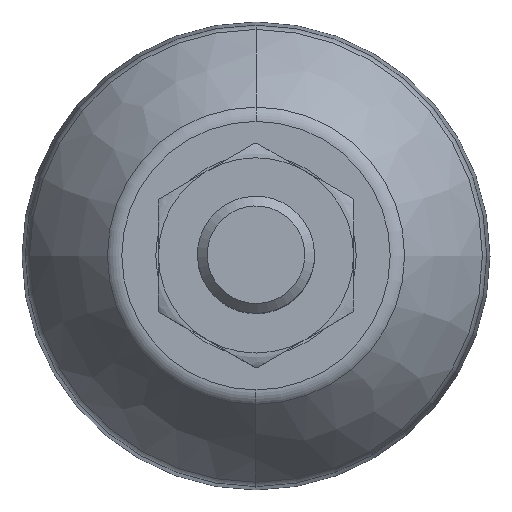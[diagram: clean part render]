
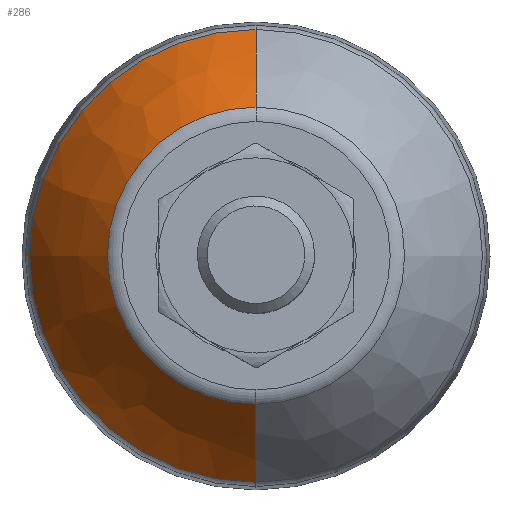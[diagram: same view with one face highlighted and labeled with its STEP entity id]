
A CAD part, top view. The second image highlights one B-rep face of the part: STEP entity #286.
In plain terms, the highlighted free-form (B-spline) face has degree [3, 3] with [4, 4] control points.
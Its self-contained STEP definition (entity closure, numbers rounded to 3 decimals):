
#286=ADVANCED_FACE('',(#492),#493,.T.);
#492=FACE_OUTER_BOUND('',#883,.T.);
#493=(B_SPLINE_SURFACE(3,3,((#885,#886,#887,#888),(#889,#890,#891,#892),(#893,#894,#895,#896),(#897,#898,#899,#900)),.UNSPECIFIED.,.F.,.F.,.F.)B_SPLINE_SURFACE_WITH_KNOTS((4,4),(4,4),(3.142,6.283),(-0.747,-0.474),.UNSPECIFIED.)RATIONAL_B_SPLINE_SURFACE(((1.0,0.333,0.333,1.0),(0.994,0.331,0.331,0.994),(0.994,0.331,0.331,0.994),(1.0,0.333,0.333,1.0)))BOUNDED_SURFACE()REPRESENTATION_ITEM('')GEOMETRIC_REPRESENTATION_ITEM()SURFACE());
#883=EDGE_LOOP('',(#1307,#1308,#1309,#1310));
#885=CARTESIAN_POINT('',(0.,4.385,-11.595));
#886=CARTESIAN_POINT('',(23.189,4.385,-11.595));
#887=CARTESIAN_POINT('',(23.189,4.385,11.595));
#888=CARTESIAN_POINT('',(0.,4.385,11.595));
#889=CARTESIAN_POINT('',(0.,6.459,-10.53));
#890=CARTESIAN_POINT('',(21.06,6.459,-10.53));
#891=CARTESIAN_POINT('',(21.06,6.459,10.53));
#892=CARTESIAN_POINT('',(0.,6.459,10.53));
#893=CARTESIAN_POINT('',(0.,8.369,-9.193));
#894=CARTESIAN_POINT('',(18.386,8.369,-9.193));
#895=CARTESIAN_POINT('',(18.386,8.369,9.193));
#896=CARTESIAN_POINT('',(0.,8.369,9.193));
#897=CARTESIAN_POINT('',(0.,10.08,-7.609));
#898=CARTESIAN_POINT('',(15.217,10.08,-7.609));
#899=CARTESIAN_POINT('',(15.217,10.08,7.609));
#900=CARTESIAN_POINT('',(0.,10.08,7.609));
#1307=ORIENTED_EDGE('',*,*,#1515,.T.);
#1308=ORIENTED_EDGE('',*,*,#1516,.T.);
#1309=ORIENTED_EDGE('',*,*,#1506,.T.);
#1310=ORIENTED_EDGE('',*,*,#1517,.F.);
#1506=EDGE_CURVE('',#1716,#1712,#1735,.T.);
#1515=EDGE_CURVE('',#1698,#1696,#1745,.T.);
#1516=EDGE_CURVE('',#1696,#1716,#1746,.T.);
#1517=EDGE_CURVE('',#1698,#1712,#1747,.T.);
#1696=VERTEX_POINT('',#2194);
#1698=VERTEX_POINT('',#2196);
#1712=VERTEX_POINT('',#2212);
#1716=VERTEX_POINT('',#2216);
#1735=CIRCLE('',#2237,11.595);
#1745=CIRCLE('',#2247,7.609);
#1746=CIRCLE('',#2248,25.545);
#1747=CIRCLE('',#2249,25.545);
#2194=CARTESIAN_POINT('',(0.,10.08,7.609));
#2196=CARTESIAN_POINT('',(0.0,10.08,-7.609));
#2212=CARTESIAN_POINT('',(0.0,4.385,-11.595));
#2216=CARTESIAN_POINT('',(0.,4.385,11.595));
#2237=AXIS2_PLACEMENT_3D('',#2444,#2445,#2446);
#2247=AXIS2_PLACEMENT_3D('',#2462,#2463,#2464);
#2248=AXIS2_PLACEMENT_3D('',#2465,#2466,#2467);
#2249=AXIS2_PLACEMENT_3D('',#2468,#2469,#2470);
#2444=CARTESIAN_POINT('',(0.0,4.385,0.0));
#2445=DIRECTION('',(0.0,1.0,0.0));
#2446=DIRECTION('',(0.0,0.0,-1.0));
#2462=CARTESIAN_POINT('',(0.0,10.08,0.0));
#2463=DIRECTION('',(0.0,-1.0,0.0));
#2464=DIRECTION('',(0.0,0.0,-1.0));
#2465=CARTESIAN_POINT('',(0.,-7.28,-11.132));
#2466=DIRECTION('',(1.0,0.0,0.));
#2467=DIRECTION('',(0.,0.0,-1.0));
#2468=CARTESIAN_POINT('',(0.0,-7.28,11.132));
#2469=DIRECTION('',(-1.0,0.0,0.0));
#2470=DIRECTION('',(0.0,0.0,1.0));
